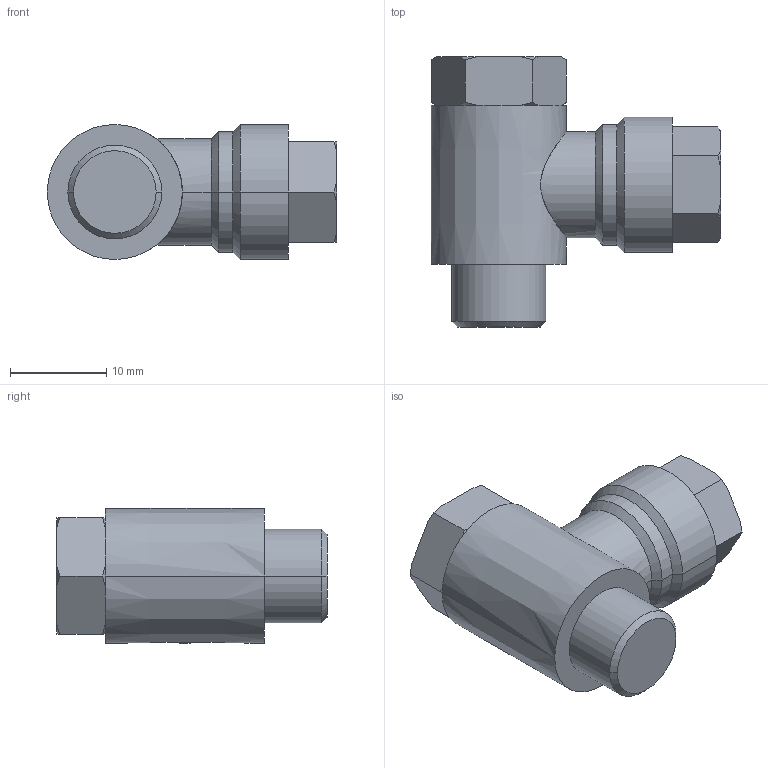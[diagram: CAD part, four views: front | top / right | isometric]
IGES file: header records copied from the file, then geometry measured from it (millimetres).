
Start section:  PTC IGES file: 1823391001.igs
Global section: file name: 1823391001.igs; native system: Pro/ENGINEER by Parametric Technology Corporation; preprocessor: 2009380; author: vol1hc; organization: Unknown; date: 20150408.174142; units: millimetre
Bounding box: 30 x 28 x 14 mm (x, y, z)
Surface area: 2349.9 mm2 (no closed solid volume)
Topology: 0 solids, 0 shells, 61 faces, 294 edges, 294 vertices
Faces by surface type: revolution 40, bspline 21
